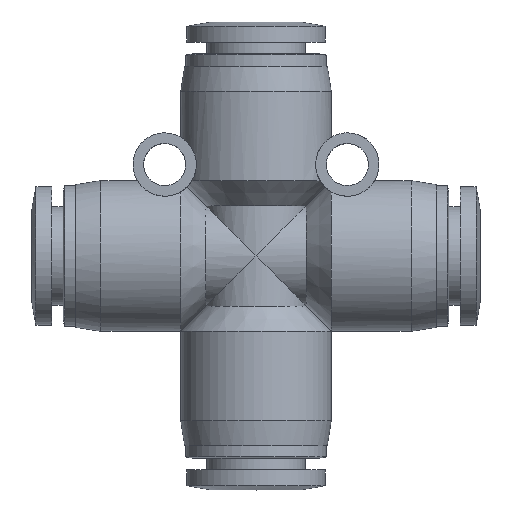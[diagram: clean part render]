
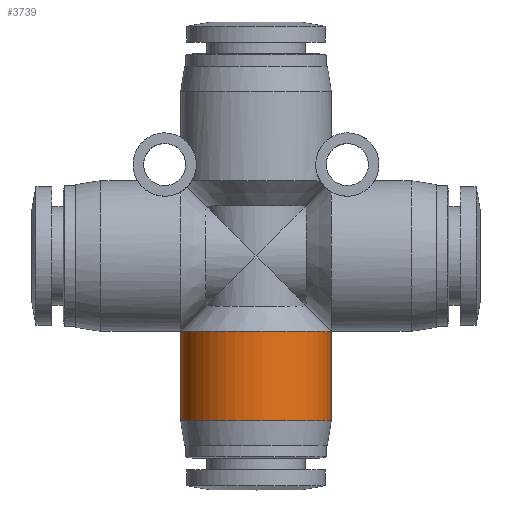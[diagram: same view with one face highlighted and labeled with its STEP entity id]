
A CAD part, top view. The second image highlights one B-rep face of the part: STEP entity #3739.
In plain terms, the highlighted cylindrical face has radius 7.5 mm (diameter 15 mm), a partial arc.
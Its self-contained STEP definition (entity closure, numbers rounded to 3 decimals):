
#45 = CARTESIAN_POINT ( 'NONE',  ( -0.982, -16.4, 7.5 ) ) ;
#187 = CARTESIAN_POINT ( 'NONE',  ( -7.5, -16.4, 0. ) ) ;
#246 = VERTEX_POINT ( 'NONE', #4169 ) ;
#306 = CARTESIAN_POINT ( 'NONE',  ( 6.553, -7.5, 3.777 ) ) ;
#629 = CARTESIAN_POINT ( 'NONE',  ( -4.609, -16.4, 5.998 ) ) ;
#719 = CARTESIAN_POINT ( 'NONE',  ( 5.998, -7.5, 4.609 ) ) ;
#722 = EDGE_CURVE ( 'NONE', #4667, #2424, #5930, .T. ) ;
#794 = CARTESIAN_POINT ( 'NONE',  ( 1.963, -7.5, 7.305 ) ) ;
#805 = LINE ( 'NONE', #4508, #1896 ) ;
#1092 = VERTEX_POINT ( 'NONE', #4463 ) ;
#1348 = CARTESIAN_POINT ( 'NONE',  ( 3.777, -7.5, 6.553 ) ) ;
#1702 = CARTESIAN_POINT ( 'NONE',  ( -7.5, -16.4, 0. ) ) ;
#1799 = CARTESIAN_POINT ( 'NONE',  ( -0.982, -7.5, 7.5 ) ) ;
#1814 = DIRECTION ( 'NONE',  ( 0., 1., 0. ) ) ;
#1832 = CARTESIAN_POINT ( 'NONE',  ( 7.305, -7.5, 1.963 ) ) ;
#1896 = VECTOR ( 'NONE', #5619, 1000. ) ;
#1935 = CARTESIAN_POINT ( 'NONE',  ( -7.305, -7.5, 1.963 ) ) ;
#1994 = EDGE_CURVE ( 'NONE', #246, #1092, #3044, .T. ) ;
#2121 = CARTESIAN_POINT ( 'NONE',  ( 1.963, -16.4, 7.305 ) ) ;
#2153 = CARTESIAN_POINT ( 'NONE',  ( -3.777, -16.4, 6.553 ) ) ;
#2191 = CARTESIAN_POINT ( 'NONE',  ( -1.963, -16.4, 7.305 ) ) ;
#2290 = ORIENTED_EDGE ( 'NONE', *, *, #1994, .T. ) ;
#2322 = ORIENTED_EDGE ( 'NONE', *, *, #4959, .F. ) ;
#2390 = CARTESIAN_POINT ( 'NONE',  ( 4.609, -7.5, 5.998 ) ) ;
#2422 = CARTESIAN_POINT ( 'NONE',  ( 0.982, -7.5, 7.5 ) ) ;
#2424 = VERTEX_POINT ( 'NONE', #187 ) ;
#2836 = CARTESIAN_POINT ( 'NONE',  ( 7.5, -7.5, 0. ) ) ;
#3044 = B_SPLINE_CURVE_WITH_KNOTS ( 'NONE', 3,
 ( #2836, #4466, #1832, #306, #719, #2390, #1348, #794, #2422, #1799, #4947, #3460, #6578, #4564, #4528, #1935, #4047, #6057 ),
 .UNSPECIFIED., .F., .F.,
 ( 4, 2, 2, 2, 2, 2, 2, 2, 4 ),
 ( 0., 0.125, 0.25, 0.375, 0.5, 0.625, 0.75, 0.875, 1. ),
 .UNSPECIFIED. ) ;
#3193 = CARTESIAN_POINT ( 'NONE',  ( 7.5, -16.4, 0. ) ) ;
#3258 = CARTESIAN_POINT ( 'NONE',  ( 4.609, -16.4, 5.998 ) ) ;
#3293 = CARTESIAN_POINT ( 'NONE',  ( -5.998, -16.4, 4.609 ) ) ;
#3332 = DIRECTION ( 'NONE',  ( -1., 0., 0. ) ) ;
#3460 = CARTESIAN_POINT ( 'NONE',  ( -3.777, -7.5, 6.553 ) ) ;
#3546 = LINE ( 'NONE', #5696, #6762 ) ;
#3630 = AXIS2_PLACEMENT_3D ( 'NONE', #5968, #1814, #3332 ) ;
#3739 = ADVANCED_FACE ( 'NONE', ( #5347 ), #3822, .T. ) ;
#3817 = CARTESIAN_POINT ( 'NONE',  ( 6.553, -16.4, 3.777 ) ) ;
#3822 = CYLINDRICAL_SURFACE ( 'NONE', #3630, 7.5 ) ;
#3824 = CARTESIAN_POINT ( 'NONE',  ( 7.5, -16.4, 0. ) ) ;
#3914 = ORIENTED_EDGE ( 'NONE', *, *, #5885, .T. ) ;
#4047 = CARTESIAN_POINT ( 'NONE',  ( -7.5, -7.5, 0.982 ) ) ;
#4169 = CARTESIAN_POINT ( 'NONE',  ( 7.5, -7.5, 0. ) ) ;
#4237 = CARTESIAN_POINT ( 'NONE',  ( -6.553, -16.4, 3.777 ) ) ;
#4269 = CARTESIAN_POINT ( 'NONE',  ( -7.305, -16.4, 1.963 ) ) ;
#4463 = CARTESIAN_POINT ( 'NONE',  ( -7.5, -7.5, 0. ) ) ;
#4466 = CARTESIAN_POINT ( 'NONE',  ( 7.5, -7.5, 0.982 ) ) ;
#4508 = CARTESIAN_POINT ( 'NONE',  ( 7.5, -11.95, 0. ) ) ;
#4528 = CARTESIAN_POINT ( 'NONE',  ( -6.553, -7.5, 3.777 ) ) ;
#4564 = CARTESIAN_POINT ( 'NONE',  ( -5.998, -7.5, 4.609 ) ) ;
#4667 = VERTEX_POINT ( 'NONE', #3824 ) ;
#4697 = EDGE_LOOP ( 'NONE', ( #5249, #3914, #2290, #2322 ) ) ;
#4783 = CARTESIAN_POINT ( 'NONE',  ( 5.998, -16.4, 4.609 ) ) ;
#4947 = CARTESIAN_POINT ( 'NONE',  ( -1.963, -7.5, 7.305 ) ) ;
#4959 = EDGE_CURVE ( 'NONE', #2424, #1092, #3546, .T. ) ;
#5249 = ORIENTED_EDGE ( 'NONE', *, *, #722, .F. ) ;
#5306 = CARTESIAN_POINT ( 'NONE',  ( 7.5, -16.4, 0.982 ) ) ;
#5341 = CARTESIAN_POINT ( 'NONE',  ( 7.305, -16.4, 1.963 ) ) ;
#5347 = FACE_OUTER_BOUND ( 'NONE', #4697, .T. ) ;
#5619 = DIRECTION ( 'NONE',  ( 0., 1., 0. ) ) ;
#5696 = CARTESIAN_POINT ( 'NONE',  ( -7.5, -11.95, 0. ) ) ;
#5858 = CARTESIAN_POINT ( 'NONE',  ( 0.982, -16.4, 7.5 ) ) ;
#5885 = EDGE_CURVE ( 'NONE', #4667, #246, #805, .T. ) ;
#5930 = B_SPLINE_CURVE_WITH_KNOTS ( 'NONE', 3,
 ( #3193, #5306, #5341, #3817, #4783, #3258, #6346, #2121, #5858, #45, #2191, #2153, #629, #3293, #4237, #4269, #6451, #1702 ),
 .UNSPECIFIED., .F., .F.,
 ( 4, 2, 2, 2, 2, 2, 2, 2, 4 ),
 ( 0.5, 0.563, 0.625, 0.688, 0.75, 0.813, 0.875, 0.938, 1. ),
 .UNSPECIFIED. ) ;
#5968 = CARTESIAN_POINT ( 'NONE',  ( 0., -11.95, 0. ) ) ;
#6057 = CARTESIAN_POINT ( 'NONE',  ( -7.5, -7.5, 0. ) ) ;
#6346 = CARTESIAN_POINT ( 'NONE',  ( 3.777, -16.4, 6.553 ) ) ;
#6451 = CARTESIAN_POINT ( 'NONE',  ( -7.5, -16.4, 0.982 ) ) ;
#6578 = CARTESIAN_POINT ( 'NONE',  ( -4.609, -7.5, 5.998 ) ) ;
#6665 = DIRECTION ( 'NONE',  ( 0., 1., 0. ) ) ;
#6762 = VECTOR ( 'NONE', #6665, 1000. ) ;
